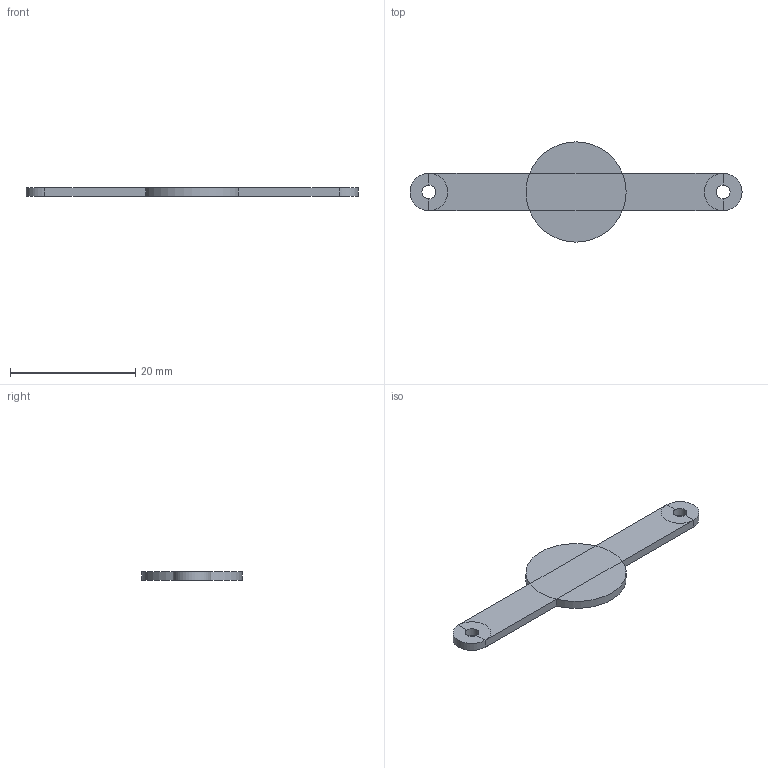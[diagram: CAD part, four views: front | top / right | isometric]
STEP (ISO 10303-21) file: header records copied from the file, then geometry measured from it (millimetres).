
FILE_DESCRIPTION(('Open CASCADE Model'),'2;1');
FILE_NAME('Open CASCADE Shape Model','2026-09-09T12:58:10',('Author'),( 'Open CASCADE'),'Open CASCADE STEP processor 7.9','Open CASCADE 7.9' ,'Unknown');
FILE_SCHEMA(('AUTOMOTIVE_DESIGN { 1 0 10303 214 1 1 1 1 }'));
Length unit declared in the file: millimetre
Products named in the file (1): Open CASCADE STEP translator 7.9 31
Bounding box: 53 x 16 x 1.35 mm (x, y, z)
Volume: 553.5 mm3; surface area: 1002.3 mm2
Topology: 1 solids, 1 shells, 29 faces, 65 edges, 34 vertices
Faces by surface type: plane 22, cylinder 7
Full cylindrical faces by diameter (mm): 2.2 x2
Entity records: 1680 total; most frequent: CARTESIAN_POINT 339, DIRECTION 269, ORIENTED_EDGE 130, PCURVE 130, DEFINITIONAL_REPRESENTATION 130, LINE 107, VECTOR 107, CIRCLE 68
